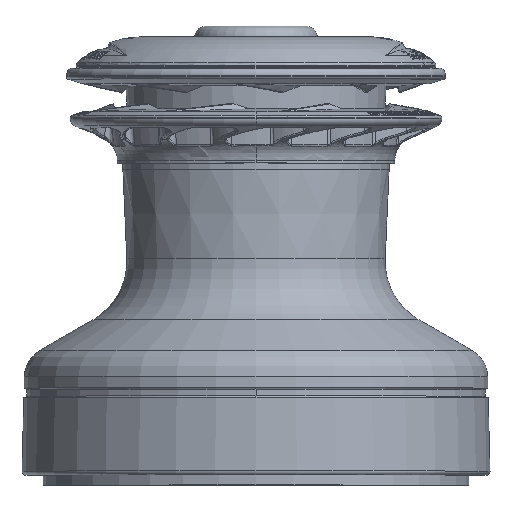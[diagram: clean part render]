
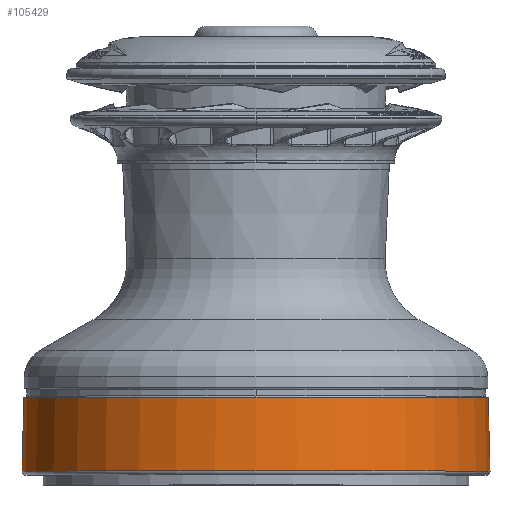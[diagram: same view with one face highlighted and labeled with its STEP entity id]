
A CAD part, top view. The second image highlights one B-rep face of the part: STEP entity #105429.
In plain terms, the highlighted conical face has half-angle 1.4 degrees and reference radius 60.243 mm.
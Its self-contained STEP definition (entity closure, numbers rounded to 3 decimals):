
#29261=CARTESIAN_POINT('',(0.,22.675,0.));
#29262=DIRECTION('',(0.,1.,0.));
#29263=DIRECTION('',(-1.,0.,0.));
#29264=AXIS2_PLACEMENT_3D('',#29261,#29262,#29263);
#29266=CARTESIAN_POINT('',(0.,3.699,0.));
#29267=DIRECTION('',(0.,-1.,0.));
#29268=DIRECTION('',(1.,0.,0.));
#29269=AXIS2_PLACEMENT_3D('',#29266,#29267,#29268);
#29286=DIRECTION('',(-0.024,-1.,0.));
#29287=VECTOR('',#29286,18.981);
#29288=CARTESIAN_POINT('',(-60.011,22.675,0.));
#29289=LINE('',#29288,#29287);
#29295=DIRECTION('',(0.024,-1.,0.));
#29296=VECTOR('',#29295,18.981);
#29297=CARTESIAN_POINT('',(60.011,22.675,0.));
#29298=LINE('',#29297,#29296);
#69929=CARTESIAN_POINT('',(-60.475,3.699,0.));
#69930=CARTESIAN_POINT('',(60.475,3.699,
0.));
#69931=VERTEX_POINT('',#69929);
#69932=VERTEX_POINT('',#69930);
#69937=CARTESIAN_POINT('',(-60.011,22.675,0.));
#69938=CARTESIAN_POINT('',(60.011,22.675,0.));
#69939=VERTEX_POINT('',#69937);
#69940=VERTEX_POINT('',#69938);
#105415=CARTESIAN_POINT('',(0.,13.187,0.));
#105416=DIRECTION('',(0.,-1.,0.));
#105417=DIRECTION('',(1.,0.,0.));
#105418=AXIS2_PLACEMENT_3D('',#105415,#105416,#105417);
#105419=CONICAL_SURFACE('',#105418,60.243,1.4);
#105421=ORIENTED_EDGE('',*,*,#105420,.T.);
#105423=ORIENTED_EDGE('',*,*,#105422,.T.);
#105424=ORIENTED_EDGE('',*,*,#105409,.T.);
#105426=ORIENTED_EDGE('',*,*,#105425,.F.);
#105427=EDGE_LOOP('',(#105421,#105423,#105424,#105426));
#105428=FACE_OUTER_BOUND('',#105427,.F.);
#105429=ADVANCED_FACE('',(#105428),#105419,.T.);
#29265=CIRCLE('',#29264,60.011);
#29270=CIRCLE('',#29269,60.475);
#105409=EDGE_CURVE('',#69932,#69931,#29270,.T.);
#105420=EDGE_CURVE('',#69939,#69940,#29265,.T.);
#105422=EDGE_CURVE('',#69940,#69932,#29298,.T.);
#105425=EDGE_CURVE('',#69939,#69931,#29289,.T.);
